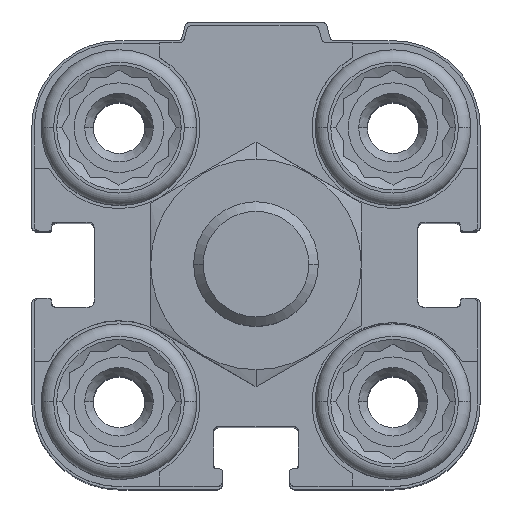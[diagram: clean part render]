
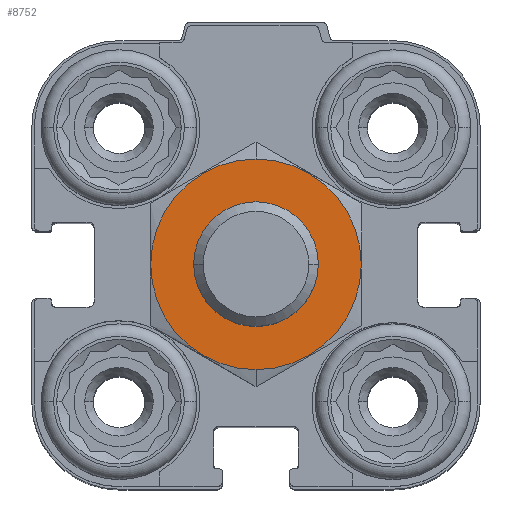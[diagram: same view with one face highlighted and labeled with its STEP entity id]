
A CAD part, top view. The second image highlights one B-rep face of the part: STEP entity #8752.
In plain terms, the highlighted planar face has unit normal (0, 0, 1).
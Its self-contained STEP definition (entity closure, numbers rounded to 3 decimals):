
#541 = CIRCLE ( 'NONE', #7769, 5. ) ;
#1377 = FACE_OUTER_BOUND ( 'NONE', #20256, .T. ) ;
#1754 = CIRCLE ( 'NONE', #13578, 8.45 ) ;
#2236 = CARTESIAN_POINT ( 'NONE',  ( 0., 0., 13.5 ) ) ;
#3640 = EDGE_CURVE ( 'NONE', #16245, #6816, #14145, .T. ) ;
#3750 = ORIENTED_EDGE ( 'NONE', *, *, #3640, .F. ) ;
#4117 = DIRECTION ( 'NONE',  ( 0., 0., -1. ) ) ;
#5129 = EDGE_LOOP ( 'NONE', ( #8767, #20151 ) ) ;
#5459 = AXIS2_PLACEMENT_3D ( 'NONE', #12369, #18655, #18758 ) ;
#6600 = DIRECTION ( 'NONE',  ( 0., -1., 0. ) ) ;
#6816 = VERTEX_POINT ( 'NONE', #17262 ) ;
#7769 = AXIS2_PLACEMENT_3D ( 'NONE', #16069, #14407, #6600 ) ;
#8752 = ADVANCED_FACE ( 'NONE', ( #1377, #14007 ), #12472, .F. ) ;
#8767 = ORIENTED_EDGE ( 'NONE', *, *, #8880, .T. ) ;
#8880 = EDGE_CURVE ( 'NONE', #19698, #15956, #541, .T. ) ;
#9788 = AXIS2_PLACEMENT_3D ( 'NONE', #18142, #18247, #20097 ) ;
#11039 = CARTESIAN_POINT ( 'NONE',  ( 0., 5., 13.5 ) ) ;
#12369 = CARTESIAN_POINT ( 'NONE',  ( 0., 0., 13.5 ) ) ;
#12472 = PLANE ( 'NONE',  #5459 ) ;
#12507 = AXIS2_PLACEMENT_3D ( 'NONE', #2236, #14660, #12929 ) ;
#12549 = CARTESIAN_POINT ( 'NONE',  ( 0., 8.45, 13.5 ) ) ;
#12727 = DIRECTION ( 'NONE',  ( 0., -1., 0. ) ) ;
#12929 = DIRECTION ( 'NONE',  ( 0., -1., 0. ) ) ;
#13578 = AXIS2_PLACEMENT_3D ( 'NONE', #18212, #4117, #12727 ) ;
#13833 = EDGE_CURVE ( 'NONE', #6816, #16245, #1754, .T. ) ;
#14007 = FACE_BOUND ( 'NONE', #5129, .T. ) ;
#14145 = CIRCLE ( 'NONE', #12507, 8.45 ) ;
#14407 = DIRECTION ( 'NONE',  ( 0., 0., -1. ) ) ;
#14623 = CARTESIAN_POINT ( 'NONE',  ( 0., -5., 13.5 ) ) ;
#14660 = DIRECTION ( 'NONE',  ( 0., 0., -1. ) ) ;
#15956 = VERTEX_POINT ( 'NONE', #14623 ) ;
#16069 = CARTESIAN_POINT ( 'NONE',  ( 0., 0., 13.5 ) ) ;
#16245 = VERTEX_POINT ( 'NONE', #12549 ) ;
#17262 = CARTESIAN_POINT ( 'NONE',  ( 0., -8.45, 13.5 ) ) ;
#17386 = ORIENTED_EDGE ( 'NONE', *, *, #13833, .F. ) ;
#18142 = CARTESIAN_POINT ( 'NONE',  ( 0., 0., 13.5 ) ) ;
#18212 = CARTESIAN_POINT ( 'NONE',  ( 0., 0., 13.5 ) ) ;
#18247 = DIRECTION ( 'NONE',  ( 0., 0., -1. ) ) ;
#18655 = DIRECTION ( 'NONE',  ( 0., 0., -1. ) ) ;
#18758 = DIRECTION ( 'NONE',  ( 0., -1., 0. ) ) ;
#18986 = CIRCLE ( 'NONE', #9788, 5. ) ;
#19698 = VERTEX_POINT ( 'NONE', #11039 ) ;
#19889 = EDGE_CURVE ( 'NONE', #15956, #19698, #18986, .T. ) ;
#20097 = DIRECTION ( 'NONE',  ( 0., -1., 0. ) ) ;
#20151 = ORIENTED_EDGE ( 'NONE', *, *, #19889, .T. ) ;
#20256 = EDGE_LOOP ( 'NONE', ( #17386, #3750 ) ) ;
